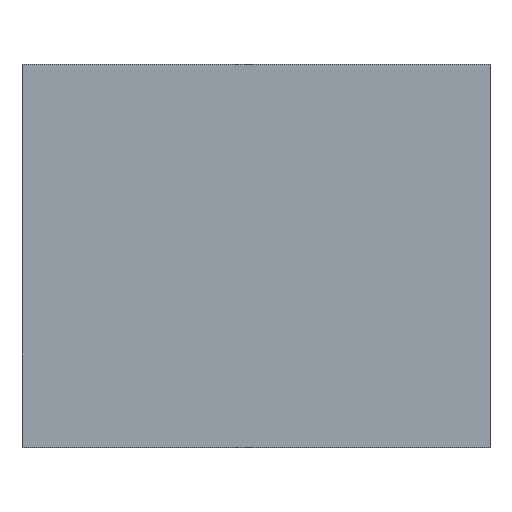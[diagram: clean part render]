
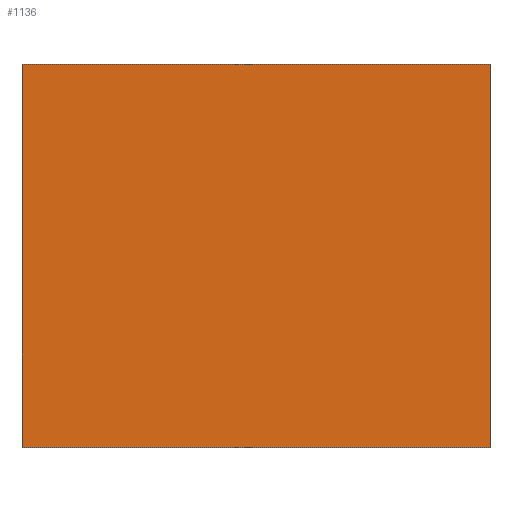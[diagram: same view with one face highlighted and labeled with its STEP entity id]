
A CAD part, top view. The second image highlights one B-rep face of the part: STEP entity #1136.
In plain terms, the highlighted planar face has unit normal (0, 0, 1).
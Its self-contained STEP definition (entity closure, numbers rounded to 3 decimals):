
#9 = VERTEX_POINT ( 'NONE', #535 ) ;
#40 = CARTESIAN_POINT ( 'NONE',  ( 66., 0., 19. ) ) ;
#65 = FACE_OUTER_BOUND ( 'NONE', #260, .T. ) ;
#78 = VECTOR ( 'NONE', #473, 1000. ) ;
#140 = DIRECTION ( 'NONE',  ( 0., 1., 0. ) ) ;
#260 = EDGE_LOOP ( 'NONE', ( #399, #567, #926, #867 ) ) ;
#303 = DIRECTION ( 'NONE',  ( -1., 0., 0. ) ) ;
#306 = CARTESIAN_POINT ( 'NONE',  ( 0., 0., 19. ) ) ;
#334 = EDGE_CURVE ( 'NONE', #904, #9, #815, .T. ) ;
#345 = EDGE_CURVE ( 'NONE', #9, #721, #628, .T. ) ;
#393 = DIRECTION ( 'NONE',  ( 0., 0., -1. ) ) ;
#399 = ORIENTED_EDGE ( 'NONE', *, *, #345, .T. ) ;
#411 = PLANE ( 'NONE',  #505 ) ;
#444 = EDGE_CURVE ( 'NONE', #836, #904, #680, .T. ) ;
#449 = CARTESIAN_POINT ( 'NONE',  ( 66., 54., 19. ) ) ;
#473 = DIRECTION ( 'NONE',  ( -1., 0., 0. ) ) ;
#505 = AXIS2_PLACEMENT_3D ( 'NONE', #1134, #393, #303 ) ;
#523 = VECTOR ( 'NONE', #1027, 1000. ) ;
#535 = CARTESIAN_POINT ( 'NONE',  ( 0., 54., 19. ) ) ;
#567 = ORIENTED_EDGE ( 'NONE', *, *, #771, .T. ) ;
#604 = CARTESIAN_POINT ( 'NONE',  ( 66., 0., 19. ) ) ;
#626 = VECTOR ( 'NONE', #905, 1000. ) ;
#628 = LINE ( 'NONE', #996, #626 ) ;
#660 = CARTESIAN_POINT ( 'NONE',  ( 0., 0., 19. ) ) ;
#680 = LINE ( 'NONE', #40, #766 ) ;
#721 = VERTEX_POINT ( 'NONE', #306 ) ;
#766 = VECTOR ( 'NONE', #140, 1000. ) ;
#771 = EDGE_CURVE ( 'NONE', #721, #836, #1121, .T. ) ;
#815 = LINE ( 'NONE', #1012, #78 ) ;
#836 = VERTEX_POINT ( 'NONE', #604 ) ;
#867 = ORIENTED_EDGE ( 'NONE', *, *, #334, .T. ) ;
#904 = VERTEX_POINT ( 'NONE', #449 ) ;
#905 = DIRECTION ( 'NONE',  ( 0., -1., 0. ) ) ;
#926 = ORIENTED_EDGE ( 'NONE', *, *, #444, .T. ) ;
#996 = CARTESIAN_POINT ( 'NONE',  ( 0., 0., 19. ) ) ;
#1012 = CARTESIAN_POINT ( 'NONE',  ( 0., 54., 19. ) ) ;
#1027 = DIRECTION ( 'NONE',  ( 1., 0., 0. ) ) ;
#1121 = LINE ( 'NONE', #660, #523 ) ;
#1134 = CARTESIAN_POINT ( 'NONE',  ( 0., 0., 19. ) ) ;
#1136 = ADVANCED_FACE ( 'NONE', ( #65 ), #411, .F. ) ;
